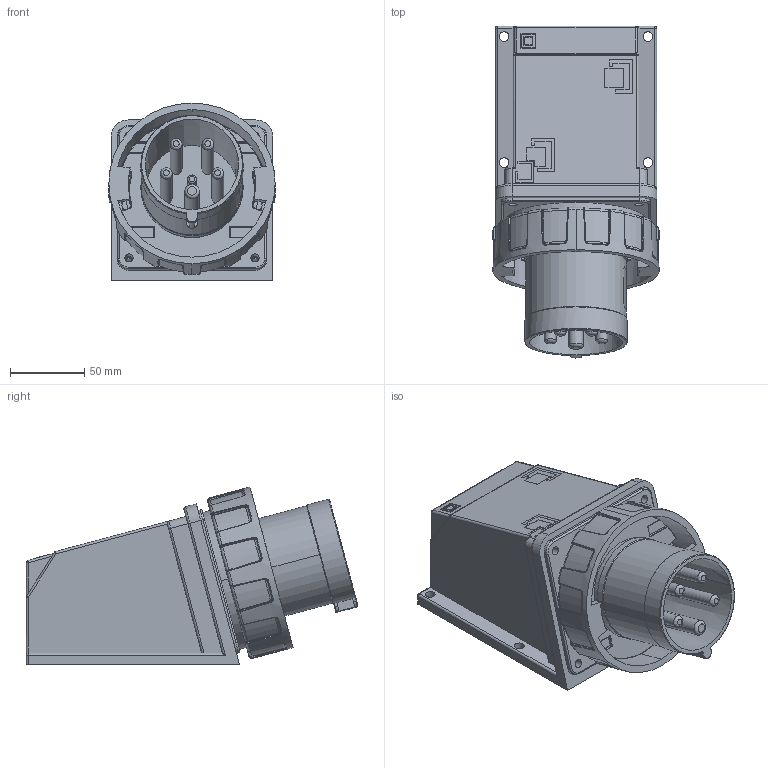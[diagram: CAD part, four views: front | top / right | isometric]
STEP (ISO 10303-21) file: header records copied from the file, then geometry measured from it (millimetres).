
FILE_DESCRIPTION(('FreeCAD Model'),'2;1');
FILE_NAME('Open CASCADE Shape Model','2026-02-04T11:13:04',(''),(''), 'Open CASCADE STEP processor 7.8','FreeCAD','Unknown');
FILE_SCHEMA(('AUTOMOTIVE_DESIGN { 1 0 10303 214 1 1 1 1 }'));
Length unit declared in the file: millimetre
Products named in the file (14): TL3M63653; Proteção terminais; Base externa; Encaixe tomada; Tomada; Pino Neutro; Pino L3; Pino Terra; Pino L2; Pino L1; Pino guia; Terminais; Base interna; Estrutura corpo
Assembly tree (13 placements, depth 2):
  TL3M63653
    Proteção terminais
    Base externa
    Encaixe tomada
    Tomada
    Pino Neutro
    Pino L3
    Pino Terra
    Pino L2
    Pino L1
    Pino guia
    Terminais
    Base interna
    Estrutura corpo
Bounding box: 112.2 x 223.93 x 120.02 mm (x, y, z)
Volume: 584510.6 mm3; surface area: 270562.2 mm2
Topology: 13 solids, 13 shells, 1641 faces, 4312 edges, 2756 vertices
Faces by surface type: plane 832, cylinder 376, bspline 271, torus 92, cone 52, sphere 16, extrusion 2
Full cylindrical faces by diameter (mm): 5.5 x4, 6 x1, 6.5 x4, 8 x4, 10 x1, 11.5 x2, 14.5 x1, 40.5 x1, 74 x1, 78 x1, 89 x1
Entity records: 86257 total; most frequent: CARTESIAN_POINT 47832, ORIENTED_EDGE 8576, DIRECTION 6884, EDGE_CURVE 4288, VERTEX_POINT 2756, AXIS2_PLACEMENT_3D 2322, VECTOR 2240, LINE 2238
